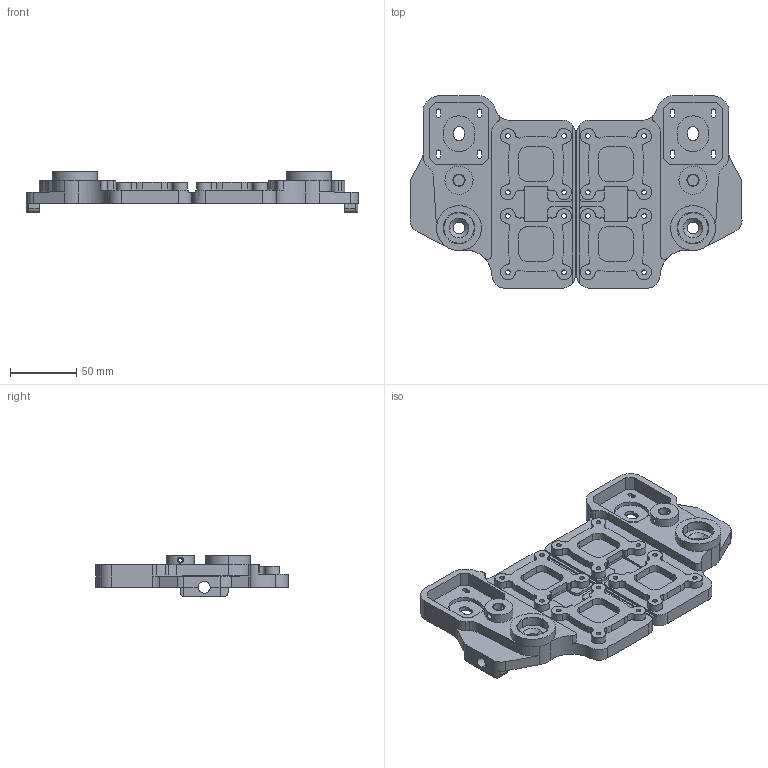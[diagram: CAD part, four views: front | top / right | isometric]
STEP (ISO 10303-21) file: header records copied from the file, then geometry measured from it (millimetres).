
FILE_DESCRIPTION(/* description */ (''),/* implementation_level */ '2;1');
FILE_NAME(/* name */ '240803-DIYUTM-SubBase',/* time_stamp */ '2024-08-03T10:06:55+02:00',/* author */ (''),/* organization */ (''),/* preprocessor_version */ 'ST-DEVELOPER v16.5',/* originating_system */ 'Rhino 7.37',/* authorisation */ '');
FILE_SCHEMA (('CONFIG_CONTROL_DESIGN'));
Length unit declared in the file: millimetre
Products named in the file (1): Document
Bounding box: 251.19 x 145.44 x 31 mm (x, y, z)
Volume: 3789.7 mm3; surface area: 98420.8 mm2
Topology: 2 solids, 4 shells, 566 faces, 1472 edges, 962 vertices
Faces by surface type: cylinder 306, plane 218, bspline 42
Entity records: 16628 total; most frequent: CARTESIAN_POINT 7391, ORIENTED_EDGE 2948, EDGE_CURVE 1476, VERTEX_POINT 964, EDGE_LOOP 686, ADVANCED_FACE 566, FACE_OUTER_BOUND 566, DIRECTION 530
